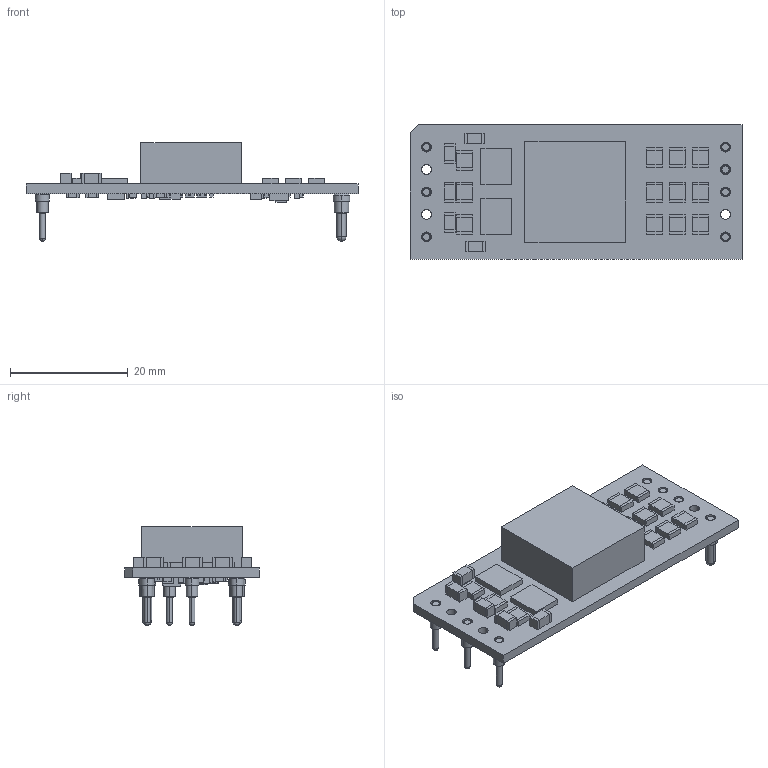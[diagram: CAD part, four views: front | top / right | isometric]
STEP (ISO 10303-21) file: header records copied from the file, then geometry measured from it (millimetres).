
FILE_DESCRIPTION (( 'STEP AP214' ), '1' );
FILE_NAME ('RPMGE5.0-10_3D_20230516.STEP', '2023-05-16T09:27:17', ( '' ), ( '' ), 'SwSTEP 2.0', 'SolidWorks 2020', '' );
FILE_SCHEMA (( 'AUTOMOTIVE_DESIGN' ));
Length unit declared in the file: millimetre
Products named in the file (2): RPMGE5.0-10_20230516_Standard; RPMGE5.0-10_3D_20230516
Assembly tree (1 placements, depth 2):
  RPMGE5.0-10_3D_20230516
    RPMGE5.0-10_20230516_Standard
Bounding box: 56.4 x 22.9 x 16.74 mm (x, y, z)
Volume: 4604.8 mm3; surface area: 5684.6 mm2
Topology: 166 solids, 166 shells, 1428 faces, 3055 edges, 1995 vertices
Faces by surface type: plane 1282, cylinder 90, cone 42, sphere 14
Entity records: 55126 total; most frequent: CARTESIAN_POINT 6906, ORIENTED_EDGE 6068, DIRECTION 6031, EDGE_CURVE 3034, LINE 2685, VECTOR 2685, VERTEX_POINT 1988, AXIS2_PLACEMENT_3D 1673
